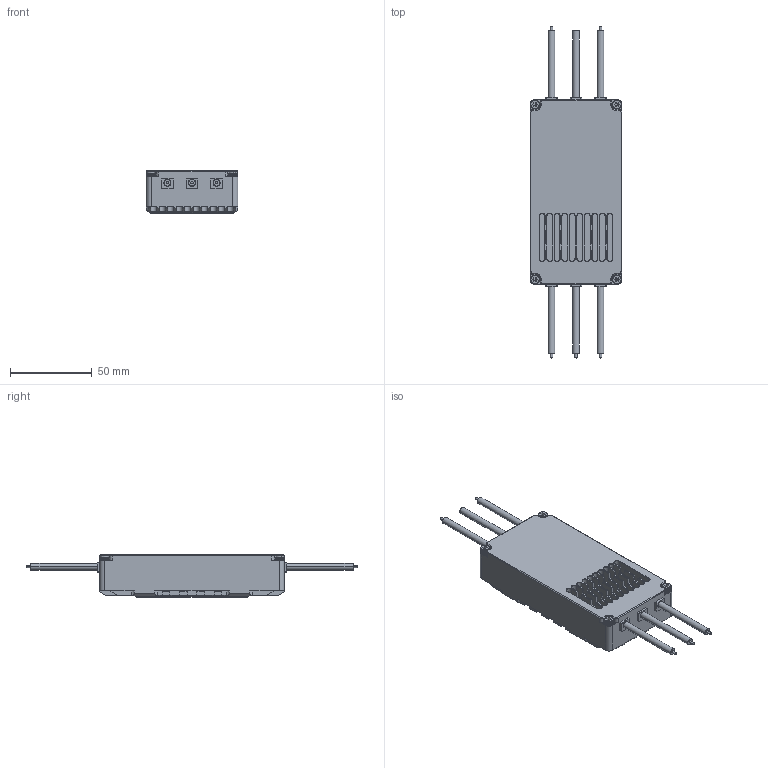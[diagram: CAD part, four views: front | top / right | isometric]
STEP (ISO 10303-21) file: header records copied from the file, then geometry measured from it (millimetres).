
FILE_DESCRIPTION((''),'2;1');
FILE_NAME('HW590-H-14S-DK_22','2023-03-03T09:34:38',('22429'),(''),'CREO PARAMETRIC BY PTC INC, 2021063','CREO PARAMETRIC BY PTC INC, 2021063','');
FILE_SCHEMA(('CONFIG_CONTROL_DESIGN'));
Products named in the file (1): HW590-H-14S-DK_22
Bounding box: 56 x 202.82 x 25.9 mm (x, y, z)
Volume: 46052.5 mm3; surface area: 57505.9 mm2
Topology: 7 solids, 7 shells, 2317 faces, 6282 edges, 4128 vertices
Faces by surface type: plane 1655, cylinder 448, cone 150, bspline 48, torus 16
Entity records: 90921 total; most frequent: CARTESIAN_POINT 32197, ORIENTED_EDGE 12564, DIRECTION 11637, EDGE_CURVE 6282, VECTOR 4705, LINE 4705, VERTEX_POINT 4128, AXIS2_PLACEMENT_3D 3466
